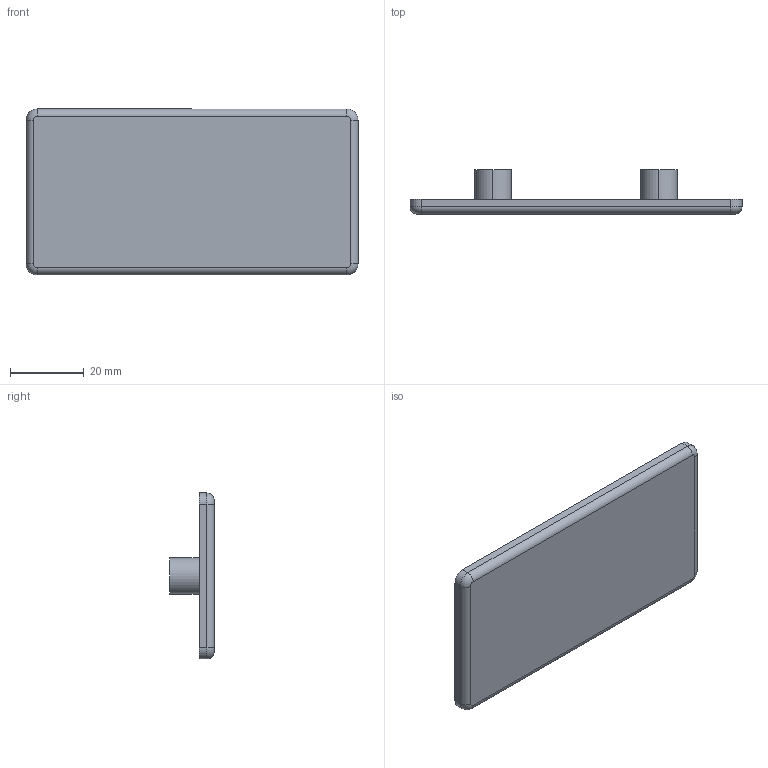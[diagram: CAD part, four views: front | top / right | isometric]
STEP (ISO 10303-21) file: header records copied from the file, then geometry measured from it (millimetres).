
FILE_DESCRIPTION (( 'STEP AP203' ), '1' );
FILE_NAME ('EC45X90.STEP', '2018-03-15T12:39:02', ( '' ), ( '' ), 'SwSTEP 2.0', 'SolidWorks 2013', '' );
FILE_SCHEMA (( 'CONFIG_CONTROL_DESIGN' ));
Length unit declared in the file: millimetre
Products named in the file (1): EC45X90
Bounding box: 90 x 12 x 45 mm (x, y, z)
Volume: 9791.9 mm3; surface area: 10491.8 mm2
Topology: 1 solids, 1 shells, 45 faces, 108 edges, 68 vertices
Faces by surface type: plane 21, cylinder 16, cone 4, torus 4
Entity records: 1391 total; most frequent: DIRECTION 248, CARTESIAN_POINT 222, ORIENTED_EDGE 216, EDGE_CURVE 108, AXIS2_PLACEMENT_3D 94, VERTEX_POINT 68, VECTOR 60, LINE 60
